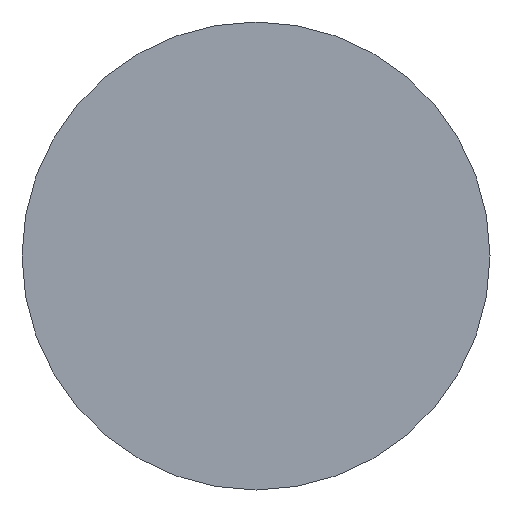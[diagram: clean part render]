
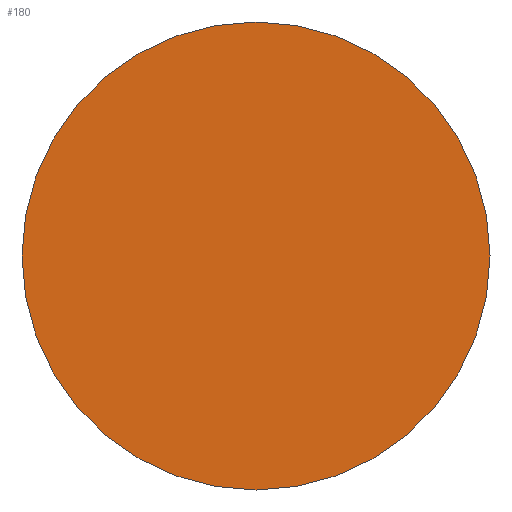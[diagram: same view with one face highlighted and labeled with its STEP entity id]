
A CAD part, left-side view. The second image highlights one B-rep face of the part: STEP entity #180.
In plain terms, the highlighted planar face has unit normal (-1, 0, 0).
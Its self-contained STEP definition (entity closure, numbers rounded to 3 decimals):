
#6 = EDGE_CURVE ( 'NONE', #95, #270, #179, .T. ) ;
#17 = AXIS2_PLACEMENT_3D ( 'NONE', #161, #99, #226 ) ;
#20 = EDGE_CURVE ( 'NONE', #270, #95, #232, .T. ) ;
#28 = AXIS2_PLACEMENT_3D ( 'NONE', #69, #56, #87 ) ;
#31 = AXIS2_PLACEMENT_3D ( 'NONE', #171, #167, #269 ) ;
#56 = DIRECTION ( 'NONE',  ( 1., 0., 0. ) ) ;
#69 = CARTESIAN_POINT ( 'NONE',  ( 0., 0., 0. ) ) ;
#87 = DIRECTION ( 'NONE',  ( 0., 1., 0. ) ) ;
#95 = VERTEX_POINT ( 'NONE', #155 ) ;
#99 = DIRECTION ( 'NONE',  ( -1., 0., 0. ) ) ;
#111 = PLANE ( 'NONE',  #17 ) ;
#155 = CARTESIAN_POINT ( 'NONE',  ( 0., 5., 0. ) ) ;
#161 = CARTESIAN_POINT ( 'NONE',  ( 0., 0., 0. ) ) ;
#163 = ORIENTED_EDGE ( 'NONE', *, *, #6, .F. ) ;
#167 = DIRECTION ( 'NONE',  ( 1., 0., 0. ) ) ;
#171 = CARTESIAN_POINT ( 'NONE',  ( 0., 0., 0. ) ) ;
#179 = CIRCLE ( 'NONE', #28, 5. ) ;
#180 = ADVANCED_FACE ( 'NONE', ( #223 ), #111, .T. ) ;
#204 = ORIENTED_EDGE ( 'NONE', *, *, #20, .F. ) ;
#218 = CARTESIAN_POINT ( 'NONE',  ( 0., -5., 0. ) ) ;
#219 = EDGE_LOOP ( 'NONE', ( #163, #204 ) ) ;
#223 = FACE_OUTER_BOUND ( 'NONE', #219, .T. ) ;
#226 = DIRECTION ( 'NONE',  ( 0., -1., 0. ) ) ;
#232 = CIRCLE ( 'NONE', #31, 5. ) ;
#269 = DIRECTION ( 'NONE',  ( 0., 1., 0. ) ) ;
#270 = VERTEX_POINT ( 'NONE', #218 ) ;
